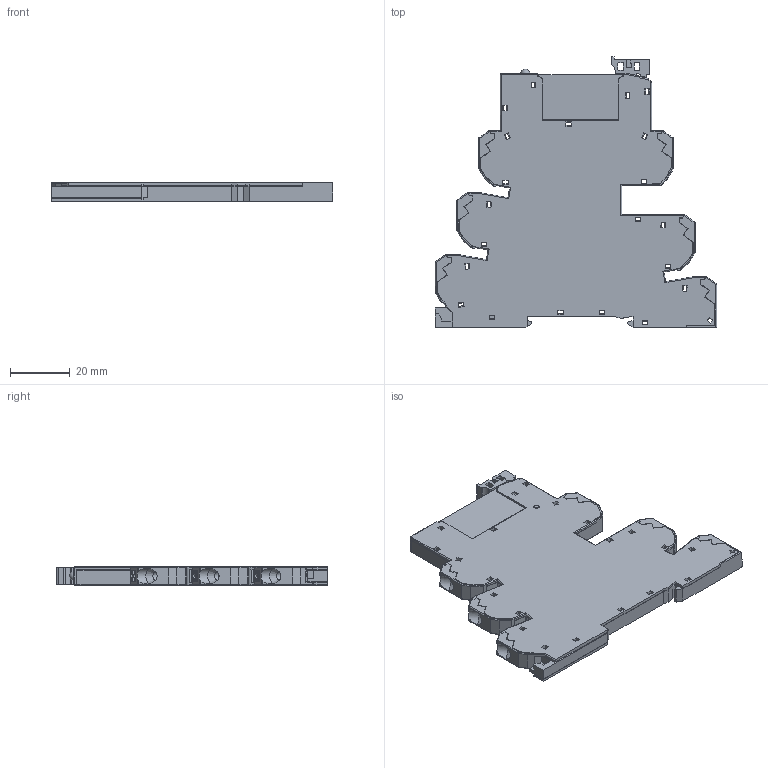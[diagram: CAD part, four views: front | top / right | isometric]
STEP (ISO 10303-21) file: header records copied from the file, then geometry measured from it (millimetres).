
FILE_DESCRIPTION( ( 'Unknown' ), '1' );
FILE_NAME( 'C:/Users/pdellaca/Desktop/Mezzacappa 93.6x push-in/39xx + 936x push-in STP/3970.stp', 'Unknown', ( 'Unknown' ), ( 'Unknown' ), 'PSStep 15.0.49', 'Unknown', ' ' );
FILE_SCHEMA( ( 'AUTOMOTIVE_DESIGN { 1 0 10303 214 1 1 1 1 }' ) );
Length unit declared in the file: millimetre
Products named in the file (22): top; EF00879+
Bounding box: 94.25 x 90.7 x 6.15 mm (x, y, z)
Surface area: 27498.2 mm2 (no closed solid volume)
Topology: 0 solids, 1031 shells, 1031 faces, 6626 edges, 6587 vertices
Faces by surface type: plane 771, cylinder 203, extrusion 20, sphere 17, cone 14, bspline 6
Full cylindrical faces by diameter (mm): 2 x2, 2.8 x6
Entity records: 72683 total; most frequent: CARTESIAN_POINT 17134, DIRECTION 9071, VERTEX_POINT 6571, ORIENTED_EDGE 6564, EDGE_CURVE 6564, VECTOR 5655, LINE 5635, AXIS2_PLACEMENT_3D 1708
